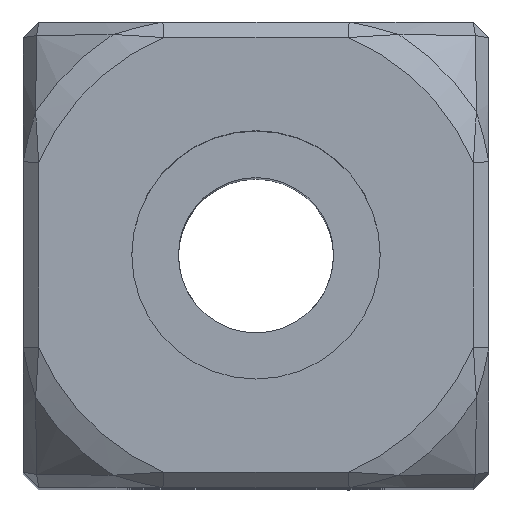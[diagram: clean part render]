
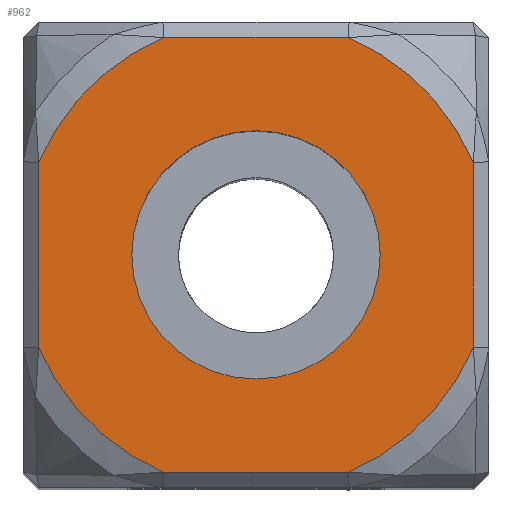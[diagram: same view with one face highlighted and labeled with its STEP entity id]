
A CAD part, top view. The second image highlights one B-rep face of the part: STEP entity #962.
In plain terms, the highlighted planar face has unit normal (0, 0, 1).
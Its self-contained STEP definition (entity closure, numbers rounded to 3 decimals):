
#666=PLANE('',#1803);
#875=LINE('',#2276,#923);
#876=LINE('',#2281,#924);
#877=LINE('',#2285,#925);
#878=LINE('',#2289,#926);
#923=VECTOR('',#1936,1.);
#924=VECTOR('',#1939,1.);
#925=VECTOR('',#1942,1.);
#926=VECTOR('',#1945,1.);
#962=ADVANCED_FACE('',(#1062,#1063),#666,.T.);
#1062=FACE_BOUND('',#1096,.T.);
#1063=FACE_BOUND('',#1097,.T.);
#1096=EDGE_LOOP('',(#1230));
#1097=EDGE_LOOP('',(#1231,#1232,#1233,#1234,#1235,#1236,#1237,#1238));
#1230=ORIENTED_EDGE('',*,*,#1634,.F.);
#1231=ORIENTED_EDGE('',*,*,#1635,.T.);
#1232=ORIENTED_EDGE('',*,*,#1636,.T.);
#1233=ORIENTED_EDGE('',*,*,#1637,.T.);
#1234=ORIENTED_EDGE('',*,*,#1638,.T.);
#1235=ORIENTED_EDGE('',*,*,#1639,.T.);
#1236=ORIENTED_EDGE('',*,*,#1640,.T.);
#1237=ORIENTED_EDGE('',*,*,#1641,.T.);
#1238=ORIENTED_EDGE('',*,*,#1642,.T.);
#1546=VERTEX_POINT('',#2275);
#1547=VERTEX_POINT('',#2277);
#1548=VERTEX_POINT('',#2278);
#1549=VERTEX_POINT('',#2280);
#1550=VERTEX_POINT('',#2282);
#1551=VERTEX_POINT('',#2284);
#1552=VERTEX_POINT('',#2286);
#1553=VERTEX_POINT('',#2288);
#1554=VERTEX_POINT('',#2290);
#1634=EDGE_CURVE('',#1546,#1546,#1758,.T.);
#1635=EDGE_CURVE('',#1547,#1548,#875,.T.);
#1636=EDGE_CURVE('',#1548,#1549,#1759,.T.);
#1637=EDGE_CURVE('',#1549,#1550,#876,.T.);
#1638=EDGE_CURVE('',#1550,#1551,#1760,.T.);
#1639=EDGE_CURVE('',#1551,#1552,#877,.T.);
#1640=EDGE_CURVE('',#1552,#1553,#1761,.T.);
#1641=EDGE_CURVE('',#1553,#1554,#878,.T.);
#1642=EDGE_CURVE('',#1554,#1547,#1762,.T.);
#1758=CIRCLE('',#1798,8.);
#1759=CIRCLE('',#1799,15.213);
#1760=CIRCLE('',#1800,15.213);
#1761=CIRCLE('',#1801,15.213);
#1762=CIRCLE('',#1802,15.213);
#1798=AXIS2_PLACEMENT_3D('',#2274,#1934,#1935);
#1799=AXIS2_PLACEMENT_3D('',#2279,#1937,#1938);
#1800=AXIS2_PLACEMENT_3D('',#2283,#1940,#1941);
#1801=AXIS2_PLACEMENT_3D('',#2287,#1943,#1944);
#1802=AXIS2_PLACEMENT_3D('',#2291,#1946,#1947);
#1803=AXIS2_PLACEMENT_3D('',#2292,#1948,#1949);
#1934=DIRECTION('',(0.,0.,1.));
#1935=DIRECTION('',(1.,0.,0.));
#1936=DIRECTION('',(0.,-1.,0.));
#1937=DIRECTION('',(0.,0.,1.));
#1938=DIRECTION('',(1.,0.,0.));
#1939=DIRECTION('',(1.,0.,0.));
#1940=DIRECTION('',(0.,0.,1.));
#1941=DIRECTION('',(1.,0.,0.));
#1942=DIRECTION('',(0.,1.,0.));
#1943=DIRECTION('',(0.,0.,1.));
#1944=DIRECTION('',(1.,0.,0.));
#1945=DIRECTION('',(-1.,0.,0.));
#1946=DIRECTION('',(0.,0.,1.));
#1947=DIRECTION('',(1.,0.,0.));
#1948=DIRECTION('',(0.,0.,1.));
#1949=DIRECTION('',(1.,0.,0.));
#2274=CARTESIAN_POINT('',(0.,0.,85.));
#2275=CARTESIAN_POINT('',(8.,0.,85.));
#2276=CARTESIAN_POINT('',(-14.,0.,85.));
#2277=CARTESIAN_POINT('',(-14.,5.953,85.));
#2278=CARTESIAN_POINT('',(-14.,-5.953,85.));
#2279=CARTESIAN_POINT('',(0.,0.,85.));
#2280=CARTESIAN_POINT('',(-5.953,-14.,85.));
#2281=CARTESIAN_POINT('',(0.,-14.,85.));
#2282=CARTESIAN_POINT('',(5.953,-14.,85.));
#2283=CARTESIAN_POINT('',(0.,0.,85.));
#2284=CARTESIAN_POINT('',(14.,-5.953,85.));
#2285=CARTESIAN_POINT('',(14.,0.,85.));
#2286=CARTESIAN_POINT('',(14.,5.953,85.));
#2287=CARTESIAN_POINT('',(0.,0.,85.));
#2288=CARTESIAN_POINT('',(5.953,14.,85.));
#2289=CARTESIAN_POINT('',(0.,14.,85.));
#2290=CARTESIAN_POINT('',(-5.953,14.,85.));
#2291=CARTESIAN_POINT('',(0.,0.,85.));
#2292=CARTESIAN_POINT('',(0.,0.,85.));
